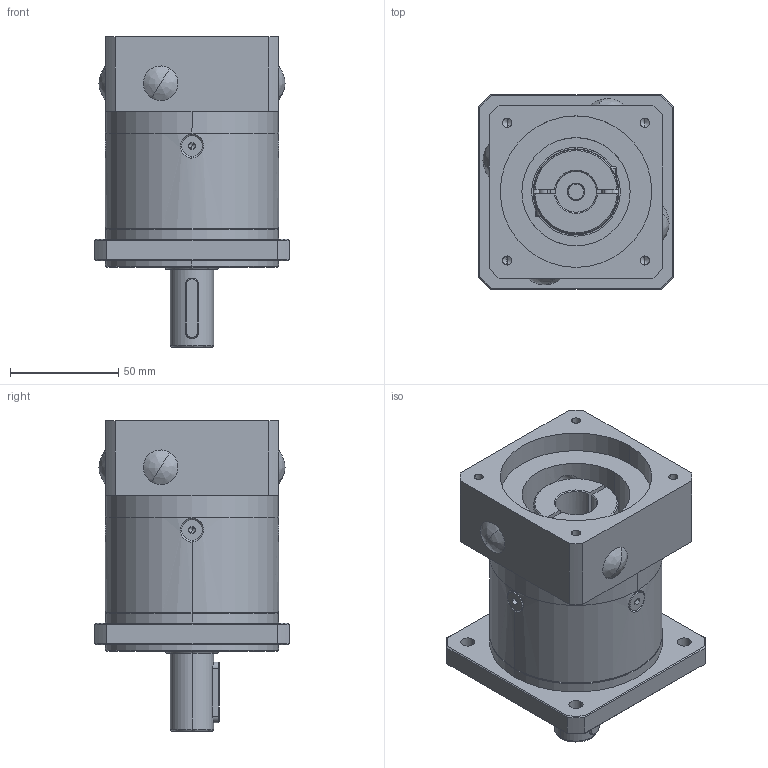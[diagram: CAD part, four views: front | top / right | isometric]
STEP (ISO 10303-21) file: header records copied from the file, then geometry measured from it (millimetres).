
FILE_DESCRIPTION (( 'STEP AP214' ), '1' );
FILE_NAME ('PF80L1-70-19-M5.STEP', '2020-09-08T06:00:09', ( '微软用户' ), ( '微软中国' ), 'SwSTEP 2.0', 'SolidWorks 2014', '' );
FILE_SCHEMA (( 'AUTOMOTIVE_DESIGN' ));
Length unit declared in the file: millimetre
Products named in the file (60): Hexagon socket countersunk head screws GB_GB_FASTENER_SCREWS_HSCHS M5X12-N; Plain parallel keys_GB_CONNECTING_PIECE_KEYS_CSK 6X28; 小垫片10.4X22.5X0.5; 幗渀粣創; Circlips for shaft--Type B GB_GB_CONNECTING_PIECE_RINGS_CSB 25; 80俴陎謫I8; 输入轴; 酗种粣10.347; Deep groove ball bearings GB_Rolling bearings 6005 GB 276-94; 怀堤粣; Circlips for hole--Type B GB_GB_CONNECTING_PIECE_RINGS_CHB 47; 菜え22X66X0.5; O型圈; 80怮栠謫I8; 输入端盖新; Circlips for holes--Type A GB_GB_CONNECTING_PIECE_RING_RRH 47; 80齿圈; PF80L1-70-19-M5; 堤粣源傷裔; Hexagon socket head cap screws GB_GB_FASTENER_SCREWS_HSHCS M5X16-N; 黑裔
Assembly tree (39 placements, depth 2):
  Hexagon socket countersunk head screws GB_GB_FASTENER_SCREWS_HSCHS M5X12-N
  小垫片10.4X22.5X0.5
  Hexagon socket countersunk head screws GB_GB_FASTENER_SCREWS_HSCHS M5X12-N
  幗渀粣創
  Hexagon socket countersunk head screws GB_GB_FASTENER_SCREWS_HSCHS M5X12-N
Bounding box: 90 x 90 x 143.5 mm (x, y, z)
Volume: 492579.8 mm3; surface area: 178752.1 mm2
Topology: 39 solids, 39 shells, 1182 faces, 3670 edges, 2233 vertices
Faces by surface type: cylinder 401, bspline 368, plane 274, cone 139
Entity records: 28672 total; most frequent: CARTESIAN_POINT 10175, ORIENTED_EDGE 3690, DIRECTION 3414, EDGE_CURVE 1845, AXIS2_PLACEMENT_3D 1416, VERTEX_POINT 1196, CIRCLE 816, EDGE_LOOP 797
